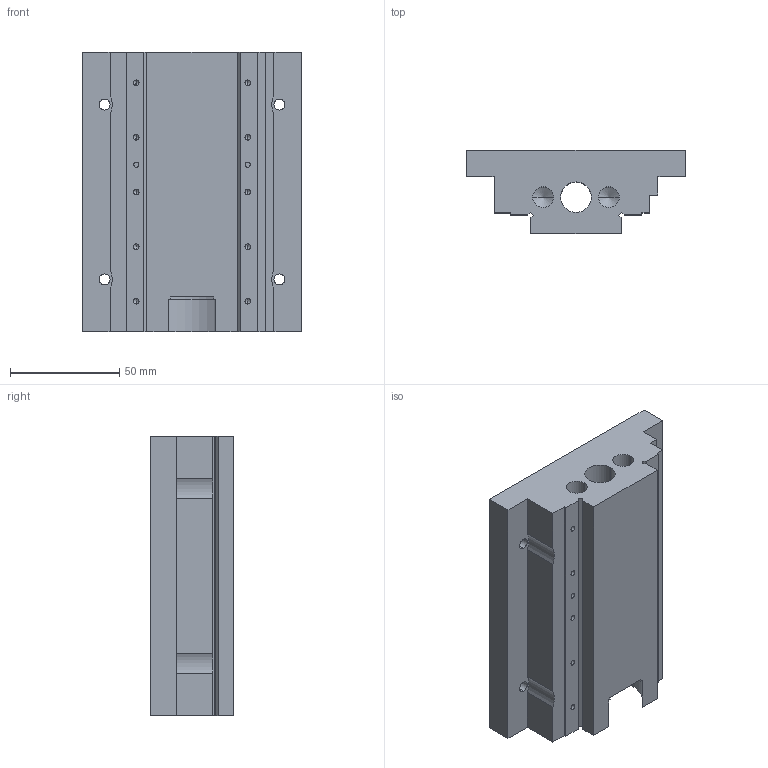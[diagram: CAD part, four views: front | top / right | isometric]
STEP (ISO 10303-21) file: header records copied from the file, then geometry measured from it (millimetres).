
FILE_DESCRIPTION (( 'STEP AP203' ), '1' );
FILE_NAME ('chariot ph20.STEP', '2009-12-04T11:17:52', ( 'Famille Couzi' ), ( '' ), 'SwSTEP 2.0', 'SolidWorks 2005143', '' );
FILE_SCHEMA (( 'CONFIG_CONTROL_DESIGN' ));
Length unit declared in the file: millimetre
Products named in the file (1): chariot ph20
Bounding box: 100 x 38 x 128 mm (x, y, z)
Volume: 308646.7 mm3; surface area: 53566.6 mm2
Topology: 1 solids, 1 shells, 128 faces, 334 edges, 196 vertices
Faces by surface type: cylinder 60, plane 36, cone 32
Entity records: 3795 total; most frequent: DIRECTION 680, CARTESIAN_POINT 627, ORIENTED_EDGE 604, EDGE_CURVE 302, AXIS2_PLACEMENT_3D 249, VERTEX_POINT 196, LINE 182, VECTOR 182
